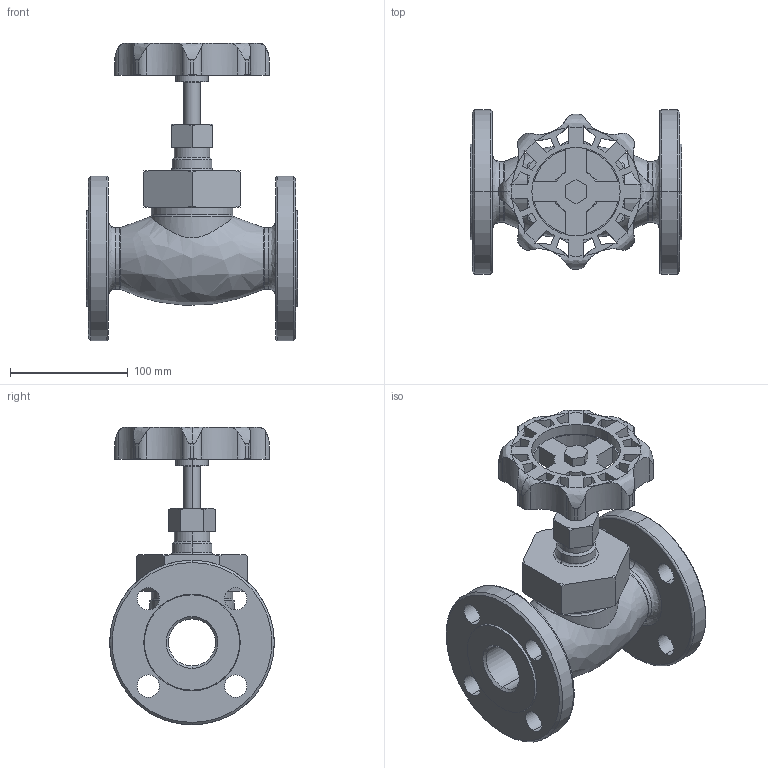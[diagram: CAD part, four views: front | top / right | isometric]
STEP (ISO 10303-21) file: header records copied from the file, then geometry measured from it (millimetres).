
FILE_DESCRIPTION( (''), '2;1');
FILE_NAME ('PC1027.9568.GLV-20F 40A_17742.stp','2025-07-28T11:42:00',(''),(''),'spGate 19.8.4 (****-****-****-****)','','');
FILE_SCHEMA (('AUTOMOTIVE_DESIGN'));
Length unit declared in the file: millimetre
Bounding box: 180 x 140 x 253 mm (x, y, z)
Volume: 1253520.7 mm3; surface area: 202105.2 mm2
Topology: 1 solids, 1 shells, 249 faces, 712 edges, 462 vertices
Faces by surface type: cylinder 110, plane 75, bspline 64
Entity records: 15170 total; most frequent: CARTESIAN_POINT 3560, ORIENTED_EDGE 1424, DIRECTION 1166, COLOUR_RGB 962, PRESENTATION_STYLE_ASSIGNMENT 962, STYLED_ITEM 962, EDGE_CURVE 712, DRAUGHTING_PRE_DEFINED_CURVE_FONT 712
